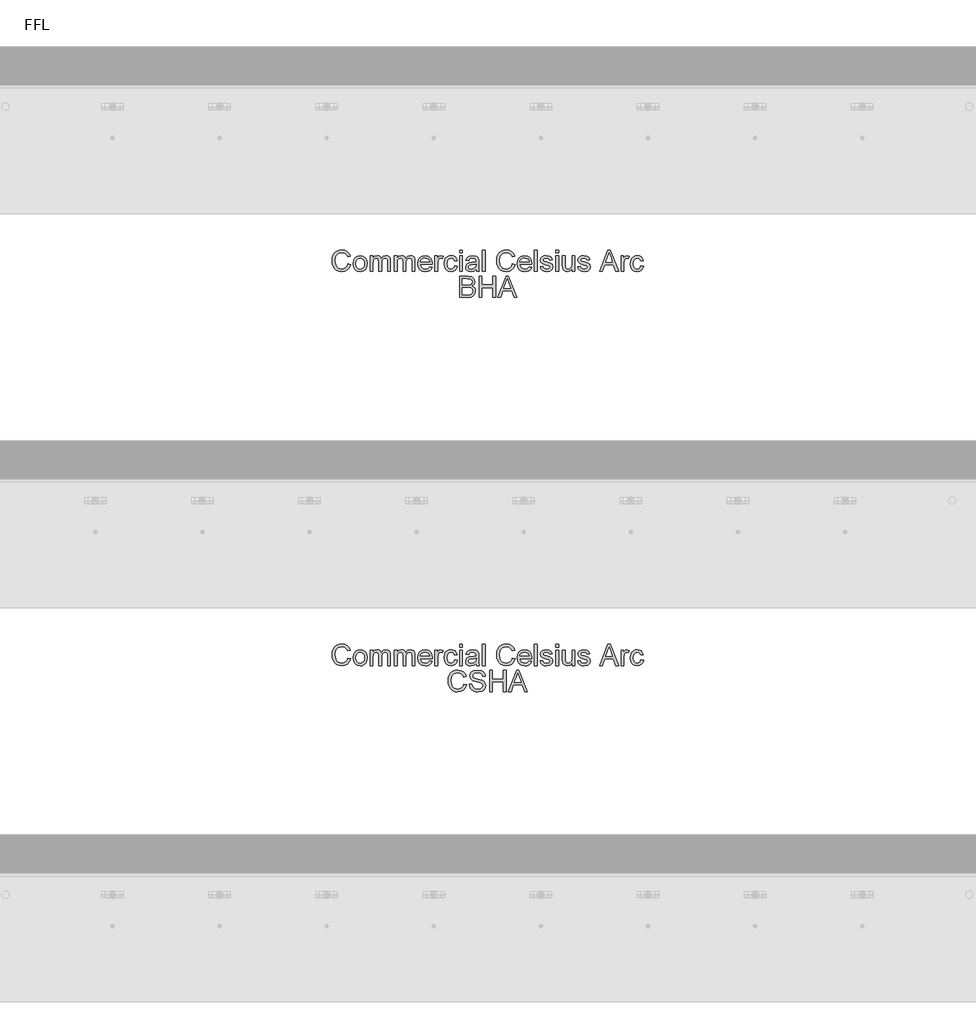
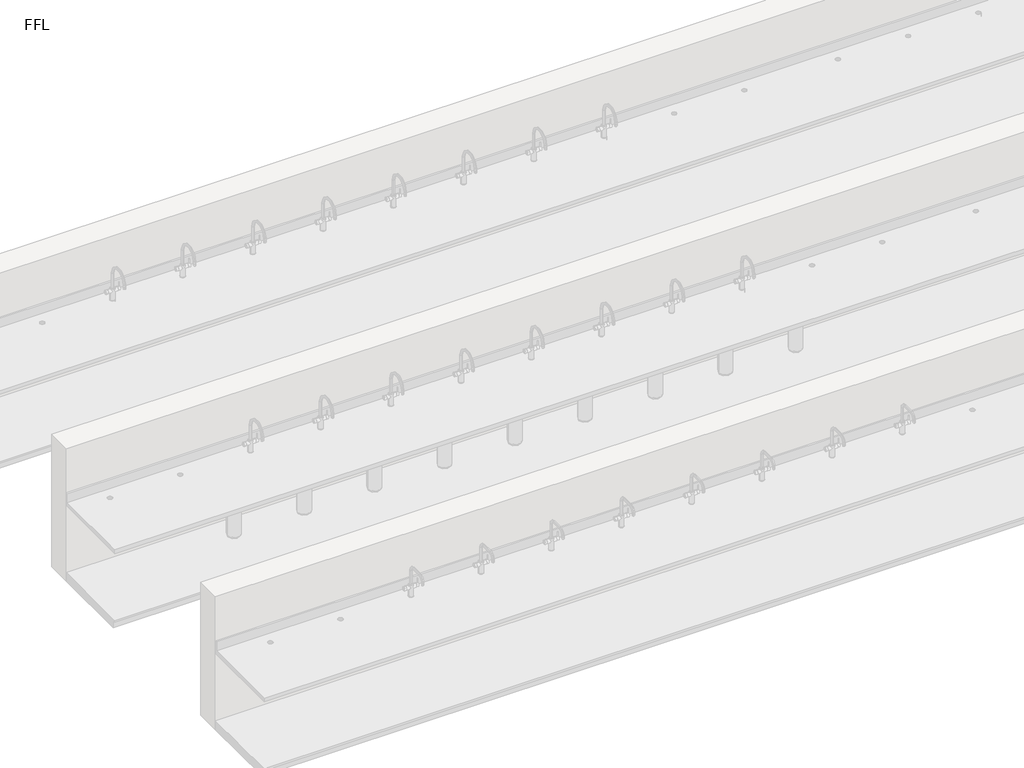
# One storey, part 6 of 9: 2 proxies.
"""IFC4 building model written with IfcOpenShell, lengths in millimetres."""

from ifc_helpers import new_model, si_unit, origin, origin_with_axes, place, context, project, spatial, polyline, outline, extrude, element, save

model = new_model("IFC4")

# Units and contexts
model_context = context("Model", 3, world=origin())
ifc_project = project(units=[si_unit("LENGTHUNIT", "METRE", prefix="MILLI")], contexts=[model_context])

# Site, building, storey
site = spatial("IfcSite", under=ifc_project)
building = spatial("IfcBuilding", under=site)
storey = spatial("IfcBuildingStorey", under=building, Name="FFL", Elevation=0.0)

# Proxies
placement = place(None, origin())
element("IfcBuildingElementProxy", 1, Name="150mm Arial", ObjectType="150mm Arial", at=placement, inside=storey, context=model_context, shape_type="SweptSolid", body=[
    extrude(outline(polyline([(-3320.889139, 3836.3018309), (-3302.4276006, 3831.5422155), (-3310.9462304, 3810.0292948), (-3324.3146198, 3794.3126482), (-3341.8747159, 3784.698766), (-3362.9684659, 3781.4941386), (-3384.382228, 3783.9190184), (-3401.3879371, 3791.1936578), (-3414.4227929, 3803.065653), (-3423.9239948, 3819.2826001), (-3429.724776, 3838.3481049), (-3431.6583698, 3858.7657732), (-3429.4723722, 3880.3012299), (-3422.9143794, 3898.8979847), (-3412.3269395, 3913.9655929), (-3398.0526006, 3924.9136097), (-3381.123514, 3931.5797756), (-3362.5718313, 3933.8018309), (-3342.3299443, 3930.9262299), (-3325.5946679, 3922.299427), (-3312.8888385, 3908.4532732), (-3304.7352929, 3889.9196193), (-3323.1968313, 3885.5205809), (-3329.5970717, 3898.9836217), (-3338.3410621, 3908.2188982), (-3349.5369756, 3913.5599439), (-3363.2929852, 3915.3402924), (-3379.1493554, 3913.3661338), (-3392.1751967, 3907.4436578), (-3402.0595116, 3898.1948597), (-3408.4913025, 3886.2417347), (-3413.1968313, 3858.8018309), (-3407.6259179, 3826.9989463), (-3400.5045236, 3815.1224439), (-3390.2821679, 3806.6804367), (-3378.0270597, 3801.6368669), (-3364.8074083, 3799.955677), (-3349.397252, 3802.2453405), (-3336.5562063, 3809.1143309), (-3326.8611943, 3820.4905328), (-3320.889139, 3836.3018309)])), origin_with_axes(), (0.0, 0.0, 1.0), 5.0),
    extrude(outline(polyline([(-3283.9660621, 3838.0326001), (-3279.9726727, 3864.1834415), (-3267.9925044, 3882.5638501), (-3253.1908217, 3891.5692588), (-3235.4684659, 3894.5710617), (-3216.0739347, 3890.9157131), (-3200.5826486, 3879.9496674), (-3190.427901, 3862.5383092), (-3187.0429852, 3839.5470232), (-3188.5393794, 3820.8961818), (-3193.0285621, 3806.6984655), (-3200.3798241, 3796.0659535), (-3210.4624563, 3788.1107251), (-3222.4381174, 3783.1482852), (-3235.4684659, 3781.4941386), (-3255.0973722, 3785.1359655), (-3270.5706294, 3796.0614463), (-3280.6172039, 3813.8378886), (-3283.9660621, 3838.0326001)]), holes=[polyline([(-3265.5045236, 3838.0686578), (-3263.3681054, 3821.3604246), (-3256.9588506, 3809.456879), (-3247.3134179, 3802.3309775), (-3235.4684659, 3799.955677), (-3223.6776006, 3802.3444992), (-3214.0501967, 3809.5109655), (-3207.6409419, 3821.5722636), (-3205.5045236, 3838.6455809), (-3207.6544635, 3854.8670352), (-3214.1042833, 3866.6083213), (-3223.7452087, 3873.7342227), (-3235.4684659, 3876.1095232), (-3247.3134179, 3873.7432371), (-3256.9588506, 3866.644379), (-3263.3681054, 3854.7678766), (-3265.5045236, 3838.0686578)])]), origin_with_axes(), (0.0, 0.0, 1.0), 5.0),
    extrude(outline(polyline([(-3166.2737544, 3783.8018309), (-3166.2737544, 3892.2633693), (-3147.8122159, 3892.2633693), (-3147.8122159, 3874.4148117), (-3135.1199083, 3889.0362059), (-3117.0550044, 3894.5710617), (-3106.7875765, 3893.1603044), (-3098.5574083, 3888.9280328), (-3088.389139, 3873.1167347), (-3073.9840909, 3889.2074799), (-3055.7929852, 3894.5710617), (-3041.9152809, 3892.3399919), (-3031.6523602, 3885.6467828), (-3025.3107135, 3874.3111458), (-3023.1968313, 3858.1527924), (-3023.1968313, 3783.8018309), (-3041.6583698, 3783.8018309), (-3041.6583698, 3850.2201001), (-3043.3711102, 3865.6347636), (-3049.5730333, 3873.2249078), (-3060.1199083, 3876.1095232), (-3070.1214107, 3874.2615665), (-3078.2749563, 3868.7176963), (-3083.6971318, 3859.0993068), (-3085.5045236, 3845.0277924), (-3085.5045236, 3783.8018309), (-3103.9660621, 3783.8018309), (-3103.9660621, 3852.2753886), (-3108.2388986, 3870.160004), (-3113.8774203, 3874.6221434), (-3122.2473121, 3876.1095232), (-3135.9131775, 3872.143177), (-3144.9997159, 3860.5326001), (-3147.8122159, 3838.5013501), (-3147.8122159, 3783.8018309), (-3166.2737544, 3783.8018309)])), origin_with_axes(), (0.0, 0.0, 1.0), 5.0),
    extrude(outline(polyline([(-2995.5045236, 3783.8018309), (-2995.5045236, 3892.2633693), (-2977.0429852, 3892.2633693), (-2977.0429852, 3874.4148117), (-2964.3506775, 3889.0362059), (-2946.2857736, 3894.5710617), (-2936.0183458, 3893.1603044), (-2927.7881775, 3888.9280328), (-2917.6199083, 3873.1167347), (-2903.2148602, 3889.2074799), (-2885.0237544, 3894.5710617), (-2871.1460501, 3892.3399919), (-2860.8831294, 3885.6467828), (-2854.5414828, 3874.3111458), (-2852.4276006, 3858.1527924), (-2852.4276006, 3783.8018309), (-2870.889139, 3783.8018309), (-2870.889139, 3850.2201001), (-2872.6018794, 3865.6347636), (-2878.8038025, 3873.2249078), (-2889.3506775, 3876.1095232), (-2899.3521799, 3874.2615665), (-2907.5057256, 3868.7176963), (-2912.927901, 3859.0993068), (-2914.7352929, 3845.0277924), (-2914.7352929, 3783.8018309), (-2933.1968313, 3783.8018309), (-2933.1968313, 3852.2753886), (-2937.4696679, 3870.160004), (-2943.1081895, 3874.6221434), (-2951.4780813, 3876.1095232), (-2965.1439467, 3872.143177), (-2974.2304852, 3860.5326001), (-2977.0429852, 3838.5013501), (-2977.0429852, 3783.8018309), (-2995.5045236, 3783.8018309)])), origin_with_axes(), (0.0, 0.0, 1.0), 5.0),
    extrude(outline(polyline([(-2748.7977929, 3816.1095232), (-2730.6968313, 3813.8018309), (-2737.2187664, 3800.1630088), (-2747.6259179, 3789.9676963), (-2761.6839107, 3783.612528), (-2779.1583698, 3781.4941386), (-2800.8200284, 3785.1494871), (-2817.4876967, 3796.1155328), (-2828.1157015, 3813.6801362), (-2831.6583698, 3837.1311578), (-2828.0796438, 3861.3709415), (-2817.3434659, 3879.4989463), (-2800.9011583, 3890.8030328), (-2780.2040429, 3894.5710617), (-2760.1514587, 3890.8120472), (-2744.1283217, 3879.535004), (-2733.6220116, 3861.4430568), (-2730.1199083, 3837.2393309), (-2730.2280813, 3832.2633693), (-2813.1968313, 3832.2633693), (-2810.0012184, 3818.4442588), (-2802.5778409, 3808.285004), (-2791.8641991, 3802.0380088), (-2778.7977929, 3799.955677), (-2760.6968313, 3803.8138501), (-2748.7977929, 3816.1095232)]), holes=[polyline([(-2813.1968313, 3850.7249078), (-2748.5814467, 3850.7249078), (-2751.0784419, 3860.4785136), (-2755.9732736, 3867.455677), (-2766.7364948, 3873.9460617), (-2780.2761583, 3876.1095232), (-2792.7205693, 3874.3832612), (-2803.0105333, 3869.2044751), (-2810.163478, 3861.1320592), (-2813.1968313, 3850.7249078)])]), origin_with_axes(), (0.0, 0.0, 1.0), 5.0),
    extrude(outline(polyline([(-2711.6583698, 3783.8018309), (-2711.6583698, 3892.2633693), (-2695.5045236, 3892.2633693), (-2695.5045236, 3876.2176963), (-2684.0381775, 3891.0013501), (-2672.4997159, 3894.5710617), (-2653.9660621, 3888.8739463), (-2660.1319275, 3872.3234655), (-2673.1126967, 3876.1095232), (-2683.5513986, 3872.4676963), (-2690.2040429, 3862.3715424), (-2693.1968313, 3840.8090424), (-2693.1968313, 3783.8018309), (-2711.6583698, 3783.8018309)])), origin_with_axes(), (0.0, 0.0, 1.0), 5.0),
    extrude(outline(polyline([(-2573.1968313, 3823.0326001), (-2554.7352929, 3820.7249078), (-2559.8825284, 3804.3051362), (-2569.5550044, 3791.8967828), (-2582.842264, 3784.0947996), (-2598.8338506, 3781.4941386), (-2618.4717712, 3785.1224439), (-2633.8278409, 3796.0073597), (-2643.7391991, 3813.6711217), (-2647.0429852, 3837.6359655), (-2641.3999563, 3868.3030328), (-2634.2785621, 3879.8009294), (-2624.2004371, 3888.0085617), (-2612.1436462, 3892.9304367), (-2599.0862544, 3894.5710617), (-2583.4867953, 3892.3174559), (-2571.0153409, 3885.5566386), (-2562.068526, 3874.6491867), (-2557.0429852, 3859.955677), (-2575.5045236, 3857.6479847), (-2584.0682256, 3871.4761097), (-2598.9420236, 3876.1095232), (-2610.8726126, 3873.8288742), (-2620.342264, 3866.986927), (-2626.521651, 3855.2140905), (-2628.5814467, 3838.1407732), (-2626.5667232, 3820.8375881), (-2620.5225525, 3809.0241867), (-2611.2241751, 3802.2228044), (-2599.4468313, 3799.955677), (-2589.8870357, 3801.3709415), (-2582.0489948, 3805.6167347), (-2576.3473722, 3812.8012299), (-2573.1968313, 3823.0326001)])), origin_with_axes(), (0.0, 0.0, 1.0), 5.0),
    extrude(outline(polyline([(-2538.5814467, 3913.0326001), (-2538.5814467, 3931.4941386), (-2520.1199083, 3931.4941386), (-2520.1199083, 3913.0326001), (-2538.5814467, 3913.0326001)])), origin_with_axes(), (0.0, 0.0, 1.0), 5.0),
    extrude(outline(polyline([(-2538.5814467, 3783.8018309), (-2538.5814467, 3892.2633693), (-2520.1199083, 3892.2633693), (-2520.1199083, 3783.8018309), (-2538.5814467, 3783.8018309)])), origin_with_axes(), (0.0, 0.0, 1.0), 5.0),
    extrude(outline(polyline([(-2423.1968313, 3797.6479847), (-2441.0994756, 3785.1359655), (-2460.8771198, 3781.4941386), (-2476.3053049, 3783.6846434), (-2487.686014, 3790.2561578), (-2494.7037424, 3800.2351242), (-2497.0429852, 3812.6479847), (-2493.5093313, 3827.2513501), (-2484.2244756, 3837.8523117), (-2471.2977929, 3843.910004), (-2455.3242352, 3846.6864463), (-2423.3050044, 3853.0326001), (-2423.1968313, 3857.143177), (-2424.467865, 3865.3823597), (-2428.2809659, 3870.7729847), (-2436.8086102, 3874.7753886), (-2448.6896198, 3876.1095232), (-2467.3675044, 3872.5578405), (-2476.2737544, 3859.955677), (-2494.7352929, 3862.2633693), (-2486.748514, 3880.2922155), (-2470.6667833, 3890.8571193), (-2446.3098121, 3894.5710617), (-2423.936014, 3891.2898117), (-2411.2977929, 3883.050629), (-2405.6367352, 3870.5205809), (-2404.7352929, 3854.3667347), (-2404.7352929, 3831.3979847), (-2403.7977929, 3799.3246674), (-2400.1199083, 3783.8018309), (-2418.5814467, 3783.8018309), (-2423.1968313, 3797.6479847)]), holes=[polyline([(-2423.1968313, 3834.5710617), (-2452.9804852, 3828.910004), (-2468.8638986, 3825.9172155), (-2476.0574083, 3821.049427), (-2478.5814467, 3813.9460617), (-2473.0826486, 3803.9580809), (-2456.9468313, 3799.955677), (-2438.2689467, 3804.3727443), (-2426.2256775, 3815.0638501), (-2423.3050044, 3829.3426963), (-2423.1968313, 3834.5710617)])]), origin_with_axes(), (0.0, 0.0, 1.0), 5.0),
    extrude(outline(polyline([(-2379.3506775, 3783.8018309), (-2379.3506775, 3931.4941386), (-2360.889139, 3931.4941386), (-2360.889139, 3783.8018309), (-2379.3506775, 3783.8018309)])), origin_with_axes(), (0.0, 0.0, 1.0), 5.0),
    extrude(outline(polyline([(-2169.3506775, 3836.3018309), (-2150.889139, 3831.5422155), (-2159.4077688, 3810.0292948), (-2172.7761583, 3794.3126482), (-2190.3362544, 3784.698766), (-2211.4300044, 3781.4941386), (-2232.8437664, 3783.9190184), (-2249.8494756, 3791.1936578), (-2262.8843313, 3803.065653), (-2272.3855333, 3819.2826001), (-2278.1863145, 3838.3481049), (-2280.1199083, 3858.7657732), (-2277.9339107, 3880.3012299), (-2271.3759179, 3898.8979847), (-2260.788478, 3913.9655929), (-2246.514139, 3924.9136097), (-2229.5850525, 3931.5797756), (-2211.0333698, 3933.8018309), (-2190.7914828, 3930.9262299), (-2174.0562063, 3922.299427), (-2161.350377, 3908.4532732), (-2153.1968313, 3889.9196193), (-2171.6583698, 3885.5205809), (-2178.0586102, 3898.9836217), (-2186.8026006, 3908.2188982), (-2197.998514, 3913.5599439), (-2211.7545236, 3915.3402924), (-2227.6108938, 3913.3661338), (-2240.6367352, 3907.4436578), (-2250.5210501, 3898.1948597), (-2256.9528409, 3886.2417347), (-2261.6583698, 3858.8018309), (-2256.0874563, 3826.9989463), (-2248.9660621, 3815.1224439), (-2238.7437063, 3806.6804367), (-2226.4885982, 3801.6368669), (-2213.2689467, 3799.955677), (-2197.8587905, 3802.2453405), (-2185.0177448, 3809.1143309), (-2175.3227328, 3820.4905328), (-2169.3506775, 3836.3018309)])), origin_with_axes(), (0.0, 0.0, 1.0), 5.0),
    extrude(outline(polyline([(-2051.8747159, 3816.1095232), (-2033.7737544, 3813.8018309), (-2040.2956895, 3800.1630088), (-2050.7028409, 3789.9676963), (-2064.7608337, 3783.612528), (-2082.2352929, 3781.4941386), (-2103.8969515, 3785.1494871), (-2120.5646198, 3796.1155328), (-2131.1926246, 3813.6801362), (-2134.7352929, 3837.1311578), (-2131.1565669, 3861.3709415), (-2120.420389, 3879.4989463), (-2103.9780813, 3890.8030328), (-2083.2809659, 3894.5710617), (-2063.2283818, 3890.8120472), (-2047.2052448, 3879.535004), (-2036.6989347, 3861.4430568), (-2033.1968313, 3837.2393309), (-2033.3050044, 3832.2633693), (-2116.2737544, 3832.2633693), (-2113.0781414, 3818.4442588), (-2105.654764, 3808.285004), (-2094.9411222, 3802.0380088), (-2081.8747159, 3799.955677), (-2063.7737544, 3803.8138501), (-2051.8747159, 3816.1095232)]), holes=[polyline([(-2116.2737544, 3850.7249078), (-2051.6583698, 3850.7249078), (-2054.155365, 3860.4785136), (-2059.0501967, 3867.455677), (-2069.8134179, 3873.9460617), (-2083.3530813, 3876.1095232), (-2095.7974924, 3874.3832612), (-2106.0874563, 3869.2044751), (-2113.240401, 3861.1320592), (-2116.2737544, 3850.7249078)])]), origin_with_axes(), (0.0, 0.0, 1.0), 5.0),
    extrude(outline(polyline([(-2014.7352929, 3783.8018309), (-2014.7352929, 3931.4941386), (-1996.2737544, 3931.4941386), (-1996.2737544, 3783.8018309), (-2014.7352929, 3783.8018309)])), origin_with_axes(), (0.0, 0.0, 1.0), 5.0),
    extrude(outline(polyline([(-1975.5045236, 3816.1095232), (-1957.0429852, 3818.4172155), (-1954.1313265, 3810.5205809), (-1948.4973121, 3804.7152924), (-1928.9179852, 3799.955677), (-1910.0958698, 3804.3186578), (-1903.9660621, 3814.5590424), (-1910.1319275, 3822.8523117), (-1929.1343313, 3828.1167347), (-1956.9348121, 3837.1491867), (-1969.0682256, 3847.6960617), (-1973.1968313, 3862.5878886), (-1969.8795236, 3876.3438982), (-1960.8290429, 3886.8547155), (-1949.092264, 3892.3174559), (-1933.2088506, 3894.5710617), (-1910.7449083, 3890.9472636), (-1896.4660621, 3881.1395713), (-1890.1199083, 3864.5710617), (-1908.5814467, 3862.2633693), (-1915.5225525, 3872.4496674), (-1931.7665429, 3876.1095232), (-1949.4348121, 3872.611927), (-1954.7352929, 3864.4628886), (-1952.5357736, 3859.0902924), (-1945.6487544, 3855.0157732), (-1929.7473121, 3851.0854847), (-1902.6499563, 3842.3955809), (-1890.0658217, 3832.5518309), (-1885.5045236, 3816.5061578), (-1890.8590909, 3798.8378886), (-1906.3098121, 3786.019379), (-1929.170389, 3781.4941386), (-1947.7851727, 3783.675629), (-1961.3699083, 3790.2201001), (-1970.4384179, 3801.0554367), (-1975.5045236, 3816.1095232)])), origin_with_axes(), (0.0, 0.0, 1.0), 5.0),
    extrude(outline(polyline([(-1864.7352929, 3783.8018309), (-1864.7352929, 3892.2633693), (-1846.2737544, 3892.2633693), (-1846.2737544, 3783.8018309), (-1864.7352929, 3783.8018309)])), origin_with_axes(), (0.0, 0.0, 1.0), 5.0),
    extrude(outline(polyline([(-1864.7352929, 3913.0326001), (-1864.7352929, 3931.4941386), (-1846.2737544, 3931.4941386), (-1846.2737544, 3913.0326001), (-1864.7352929, 3913.0326001)])), origin_with_axes(), (0.0, 0.0, 1.0), 5.0),
    extrude(outline(polyline([(-1749.3506775, 3783.8018309), (-1749.3506775, 3802.4436578), (-1763.8098121, 3786.7315184), (-1782.6679852, 3781.4941386), (-1800.029764, 3785.1720232), (-1812.0009179, 3794.4027924), (-1817.4997159, 3807.9965424), (-1818.5814467, 3825.160004), (-1818.5814467, 3892.2633693), (-1800.1199083, 3892.2633693), (-1800.1199083, 3833.8499078), (-1799.0021198, 3815.0277924), (-1791.7004371, 3803.9761097), (-1777.9444275, 3799.955677), (-1762.529764, 3804.066254), (-1752.3434659, 3815.2621674), (-1749.3506775, 3835.8330809), (-1749.3506775, 3892.2633693), (-1730.889139, 3892.2633693), (-1730.889139, 3783.8018309), (-1749.3506775, 3783.8018309)])), origin_with_axes(), (0.0, 0.0, 1.0), 5.0),
    extrude(outline(polyline([(-1712.4276006, 3816.1095232), (-1693.9660621, 3818.4172155), (-1691.0544034, 3810.5205809), (-1685.420389, 3804.7152924), (-1665.8410621, 3799.955677), (-1647.0189467, 3804.3186578), (-1640.889139, 3814.5590424), (-1647.0550044, 3822.8523117), (-1666.0574083, 3828.1167347), (-1693.857889, 3837.1491867), (-1705.9913025, 3847.6960617), (-1710.1199083, 3862.5878886), (-1706.8026006, 3876.3438982), (-1697.7521198, 3886.8547155), (-1686.0153409, 3892.3174559), (-1670.1319275, 3894.5710617), (-1647.6679852, 3890.9472636), (-1633.389139, 3881.1395713), (-1627.0429852, 3864.5710617), (-1645.5045236, 3862.2633693), (-1652.4456294, 3872.4496674), (-1668.6896198, 3876.1095232), (-1686.357889, 3872.611927), (-1691.6583698, 3864.4628886), (-1689.4588506, 3859.0902924), (-1682.5718313, 3855.0157732), (-1666.670389, 3851.0854847), (-1639.5730333, 3842.3955809), (-1626.9888986, 3832.5518309), (-1622.4276006, 3816.5061578), (-1627.7821679, 3798.8378886), (-1643.232889, 3786.019379), (-1666.0934659, 3781.4941386), (-1684.7082496, 3783.675629), (-1698.2929852, 3790.2201001), (-1707.3614948, 3801.0554367), (-1712.4276006, 3816.1095232)])), origin_with_axes(), (0.0, 0.0, 1.0), 5.0),
    extrude(outline(polyline([(-1558.857889, 3783.8018309), (-1499.9035621, 3931.4941386), (-1484.1824083, 3931.4941386), (-1425.2280813, 3783.8018309), (-1444.7352929, 3783.8018309), (-1461.6463506, 3829.955677), (-1522.4756775, 3829.955677), (-1539.3506775, 3783.8018309), (-1558.857889, 3783.8018309)]), holes=[polyline([(-1515.6968313, 3848.4172155), (-1468.389139, 3848.4172155), (-1481.6944275, 3884.7273117), (-1492.0429852, 3913.0326001), (-1501.2376967, 3887.9003886), (-1515.6968313, 3848.4172155)])]), origin_with_axes(), (0.0, 0.0, 1.0), 5.0),
    extrude(outline(polyline([(-1407.8122159, 3783.8018309), (-1407.8122159, 3892.2633693), (-1391.6583698, 3892.2633693), (-1391.6583698, 3876.2176963), (-1380.1920236, 3891.0013501), (-1368.6535621, 3894.5710617), (-1350.1199083, 3888.8739463), (-1356.2857736, 3872.3234655), (-1369.2665429, 3876.1095232), (-1379.7052448, 3872.4676963), (-1386.357889, 3862.3715424), (-1389.3506775, 3840.8090424), (-1389.3506775, 3783.8018309), (-1407.8122159, 3783.8018309)])), origin_with_axes(), (0.0, 0.0, 1.0), 5.0),
    extrude(outline(polyline([(-1269.3506775, 3823.0326001), (-1250.889139, 3820.7249078), (-1256.0363746, 3804.3051362), (-1265.7088506, 3791.8967828), (-1278.9961102, 3784.0947996), (-1294.9876967, 3781.4941386), (-1314.6256174, 3785.1224439), (-1329.9816871, 3796.0073597), (-1339.8930453, 3813.6711217), (-1343.1968313, 3837.6359655), (-1337.5538025, 3868.3030328), (-1330.4324083, 3879.8009294), (-1320.3542833, 3888.0085617), (-1308.2974924, 3892.9304367), (-1295.2401006, 3894.5710617), (-1279.6406414, 3892.3174559), (-1267.1691871, 3885.5566386), (-1258.2223722, 3874.6491867), (-1253.1968313, 3859.955677), (-1271.6583698, 3857.6479847), (-1280.2220717, 3871.4761097), (-1295.0958698, 3876.1095232), (-1307.0264587, 3873.8288742), (-1316.4961102, 3866.986927), (-1322.6754972, 3855.2140905), (-1324.7352929, 3838.1407732), (-1322.7205693, 3820.8375881), (-1316.6763986, 3809.0241867), (-1307.3780212, 3802.2228044), (-1295.6006775, 3799.955677), (-1286.0408818, 3801.3709415), (-1278.2028409, 3805.6167347), (-1272.5012184, 3812.8012299), (-1269.3506775, 3823.0326001)])), origin_with_axes(), (0.0, 0.0, 1.0), 5.0),
    extrude(outline(polyline([(-2538.5814467, 3601.4941386), (-2538.5814467, 3749.1864463), (-2482.2232736, 3749.1864463), (-2454.6211102, 3744.8414943), (-2445.3452688, 3739.3291746), (-2438.3230333, 3731.4821193), (-2432.4276006, 3712.5878886), (-2437.3855333, 3695.3342828), (-2452.3675044, 3682.2633693), (-2441.9062664, 3676.800629), (-2434.1763986, 3668.4893309), (-2429.4032616, 3657.8793549), (-2427.8122159, 3645.5205809), (-2432.1571679, 3625.6708213), (-2442.920389, 3611.5362059), (-2458.9840909, 3604.0362059), (-2482.6559659, 3601.4941386), (-2538.5814467, 3601.4941386)]), holes=[polyline([(-2520.1199083, 3689.1864463), (-2486.4059659, 3689.1864463), (-2466.7184659, 3690.7729847), (-2454.873514, 3697.6059174), (-2450.889139, 3709.6311578), (-2454.6030813, 3721.674427), (-2465.2401006, 3728.7958213), (-2488.9660621, 3730.7249078), (-2520.1199083, 3730.7249078), (-2520.1199083, 3689.1864463)]), polyline([(-2520.1199083, 3619.955677), (-2482.2593313, 3619.955677), (-2468.5574083, 3620.6768309), (-2456.9648602, 3624.6972636), (-2449.2845717, 3632.9003886), (-2446.2737544, 3645.3402924), (-2449.8074083, 3659.691254), (-2461.2557256, 3668.2549559), (-2484.0622159, 3670.7249078), (-2520.1199083, 3670.7249078), (-2520.1199083, 3619.955677)])]), origin_with_axes(), (0.0, 0.0, 1.0), 5.0),
    extrude(outline(polyline([(-2402.4276006, 3601.4941386), (-2402.4276006, 3749.1864463), (-2383.9660621, 3749.1864463), (-2383.9660621, 3689.1864463), (-2305.5045236, 3689.1864463), (-2305.5045236, 3749.1864463), (-2287.0429852, 3749.1864463), (-2287.0429852, 3601.4941386), (-2305.5045236, 3601.4941386), (-2305.5045236, 3670.7249078), (-2383.9660621, 3670.7249078), (-2383.9660621, 3601.4941386), (-2402.4276006, 3601.4941386)])), origin_with_axes(), (0.0, 0.0, 1.0), 5.0),
    extrude(outline(polyline([(-2271.9348121, 3601.4941386), (-2212.9804852, 3749.1864463), (-2197.2593313, 3749.1864463), (-2138.3050044, 3601.4941386), (-2157.8122159, 3601.4941386), (-2174.7232736, 3647.6479847), (-2235.5526006, 3647.6479847), (-2252.4276006, 3601.4941386), (-2271.9348121, 3601.4941386)]), holes=[polyline([(-2228.7737544, 3666.1095232), (-2181.4660621, 3666.1095232), (-2194.7713506, 3702.4196193), (-2205.1199083, 3730.7249078), (-2214.3146198, 3705.5926963), (-2228.7737544, 3666.1095232)])]), origin_with_axes(), (0.0, 0.0, 1.0), 5.0),
])
element("IfcBuildingElementProxy", 2, Name="150mm Arial", ObjectType="150mm Arial", at=placement, inside=storey, context=model_context, shape_type="SweptSolid", body=[
    extrude(outline(polyline([(-3320.889139, 1076.3018309), (-3302.4276006, 1071.5422155), (-3310.9462304, 1050.0292948), (-3324.3146198, 1034.3126482), (-3341.8747159, 1024.698766), (-3362.9684659, 1021.4941386), (-3384.382228, 1023.9190184), (-3401.3879371, 1031.1936578), (-3414.4227929, 1043.065653), (-3423.9239948, 1059.2826001), (-3429.724776, 1078.3481049), (-3431.6583698, 1098.7657732), (-3429.4723722, 1120.3012299), (-3422.9143794, 1138.8979847), (-3412.3269395, 1153.9655929), (-3398.0526006, 1164.9136097), (-3381.123514, 1171.5797756), (-3362.5718313, 1173.8018309), (-3342.3299443, 1170.9262299), (-3325.5946679, 1162.299427), (-3312.8888385, 1148.4532732), (-3304.7352929, 1129.9196193), (-3323.1968313, 1125.5205809), (-3329.5970717, 1138.9836217), (-3338.3410621, 1148.2188982), (-3349.5369756, 1153.5599439), (-3363.2929852, 1155.3402924), (-3379.1493554, 1153.3661338), (-3392.1751967, 1147.4436578), (-3402.0595116, 1138.1948597), (-3408.4913025, 1126.2417347), (-3413.1968313, 1098.8018309), (-3407.6259179, 1066.9989463), (-3400.5045236, 1055.1224439), (-3390.2821679, 1046.6804367), (-3378.0270597, 1041.6368669), (-3364.8074083, 1039.955677), (-3349.397252, 1042.2453405), (-3336.5562063, 1049.1143309), (-3326.8611943, 1060.4905328), (-3320.889139, 1076.3018309)])), origin_with_axes(), (0.0, 0.0, 1.0), 5.0),
    extrude(outline(polyline([(-3283.9660621, 1078.0326001), (-3279.9726727, 1104.1834415), (-3267.9925044, 1122.5638501), (-3253.1908217, 1131.5692588), (-3235.4684659, 1134.5710617), (-3216.0739347, 1130.9157131), (-3200.5826486, 1119.9496674), (-3190.427901, 1102.5383092), (-3187.0429852, 1079.5470232), (-3188.5393794, 1060.8961818), (-3193.0285621, 1046.6984655), (-3200.3798241, 1036.0659535), (-3210.4624563, 1028.1107251), (-3222.4381174, 1023.1482852), (-3235.4684659, 1021.4941386), (-3255.0973722, 1025.1359655), (-3270.5706294, 1036.0614463), (-3280.6172039, 1053.8378886), (-3283.9660621, 1078.0326001)]), holes=[polyline([(-3265.5045236, 1078.0686578), (-3263.3681054, 1061.3604246), (-3256.9588506, 1049.456879), (-3247.3134179, 1042.3309775), (-3235.4684659, 1039.955677), (-3223.6776006, 1042.3444992), (-3214.0501967, 1049.5109655), (-3207.6409419, 1061.5722636), (-3205.5045236, 1078.6455809), (-3207.6544635, 1094.8670352), (-3214.1042833, 1106.6083213), (-3223.7452087, 1113.7342227), (-3235.4684659, 1116.1095232), (-3247.3134179, 1113.7432371), (-3256.9588506, 1106.644379), (-3263.3681054, 1094.7678766), (-3265.5045236, 1078.0686578)])]), origin_with_axes(), (0.0, 0.0, 1.0), 5.0),
    extrude(outline(polyline([(-3166.2737544, 1023.8018309), (-3166.2737544, 1132.2633693), (-3147.8122159, 1132.2633693), (-3147.8122159, 1114.4148117), (-3135.1199083, 1129.0362059), (-3117.0550044, 1134.5710617), (-3106.7875765, 1133.1603044), (-3098.5574083, 1128.9280328), (-3088.389139, 1113.1167347), (-3073.9840909, 1129.2074799), (-3055.7929852, 1134.5710617), (-3041.9152809, 1132.3399919), (-3031.6523602, 1125.6467828), (-3025.3107135, 1114.3111458), (-3023.1968313, 1098.1527924), (-3023.1968313, 1023.8018309), (-3041.6583698, 1023.8018309), (-3041.6583698, 1090.2201001), (-3043.3711102, 1105.6347636), (-3049.5730333, 1113.2249078), (-3060.1199083, 1116.1095232), (-3070.1214107, 1114.2615665), (-3078.2749563, 1108.7176963), (-3083.6971318, 1099.0993068), (-3085.5045236, 1085.0277924), (-3085.5045236, 1023.8018309), (-3103.9660621, 1023.8018309), (-3103.9660621, 1092.2753886), (-3108.2388986, 1110.160004), (-3113.8774203, 1114.6221434), (-3122.2473121, 1116.1095232), (-3135.9131775, 1112.143177), (-3144.9997159, 1100.5326001), (-3147.8122159, 1078.5013501), (-3147.8122159, 1023.8018309), (-3166.2737544, 1023.8018309)])), origin_with_axes(), (0.0, 0.0, 1.0), 5.0),
    extrude(outline(polyline([(-2995.5045236, 1023.8018309), (-2995.5045236, 1132.2633693), (-2977.0429852, 1132.2633693), (-2977.0429852, 1114.4148117), (-2964.3506775, 1129.0362059), (-2946.2857736, 1134.5710617), (-2936.0183458, 1133.1603044), (-2927.7881775, 1128.9280328), (-2917.6199083, 1113.1167347), (-2903.2148602, 1129.2074799), (-2885.0237544, 1134.5710617), (-2871.1460501, 1132.3399919), (-2860.8831294, 1125.6467828), (-2854.5414828, 1114.3111458), (-2852.4276006, 1098.1527924), (-2852.4276006, 1023.8018309), (-2870.889139, 1023.8018309), (-2870.889139, 1090.2201001), (-2872.6018794, 1105.6347636), (-2878.8038025, 1113.2249078), (-2889.3506775, 1116.1095232), (-2899.3521799, 1114.2615665), (-2907.5057256, 1108.7176963), (-2912.927901, 1099.0993068), (-2914.7352929, 1085.0277924), (-2914.7352929, 1023.8018309), (-2933.1968313, 1023.8018309), (-2933.1968313, 1092.2753886), (-2937.4696679, 1110.160004), (-2943.1081895, 1114.6221434), (-2951.4780813, 1116.1095232), (-2965.1439467, 1112.143177), (-2974.2304852, 1100.5326001), (-2977.0429852, 1078.5013501), (-2977.0429852, 1023.8018309), (-2995.5045236, 1023.8018309)])), origin_with_axes(), (0.0, 0.0, 1.0), 5.0),
    extrude(outline(polyline([(-2748.7977929, 1056.1095232), (-2730.6968313, 1053.8018309), (-2737.2187664, 1040.1630088), (-2747.6259179, 1029.9676963), (-2761.6839107, 1023.612528), (-2779.1583698, 1021.4941386), (-2800.8200284, 1025.1494871), (-2817.4876967, 1036.1155328), (-2828.1157015, 1053.6801362), (-2831.6583698, 1077.1311578), (-2828.0796438, 1101.3709415), (-2817.3434659, 1119.4989463), (-2800.9011583, 1130.8030328), (-2780.2040429, 1134.5710617), (-2760.1514587, 1130.8120472), (-2744.1283217, 1119.535004), (-2733.6220116, 1101.4430568), (-2730.1199083, 1077.2393309), (-2730.2280813, 1072.2633693), (-2813.1968313, 1072.2633693), (-2810.0012184, 1058.4442588), (-2802.5778409, 1048.285004), (-2791.8641991, 1042.0380088), (-2778.7977929, 1039.955677), (-2760.6968313, 1043.8138501), (-2748.7977929, 1056.1095232)]), holes=[polyline([(-2813.1968313, 1090.7249078), (-2748.5814467, 1090.7249078), (-2751.0784419, 1100.4785136), (-2755.9732736, 1107.455677), (-2766.7364948, 1113.9460617), (-2780.2761583, 1116.1095232), (-2792.7205693, 1114.3832612), (-2803.0105333, 1109.2044751), (-2810.163478, 1101.1320592), (-2813.1968313, 1090.7249078)])]), origin_with_axes(), (0.0, 0.0, 1.0), 5.0),
    extrude(outline(polyline([(-2711.6583698, 1023.8018309), (-2711.6583698, 1132.2633693), (-2695.5045236, 1132.2633693), (-2695.5045236, 1116.2176963), (-2684.0381775, 1131.0013501), (-2672.4997159, 1134.5710617), (-2653.9660621, 1128.8739463), (-2660.1319275, 1112.3234655), (-2673.1126967, 1116.1095232), (-2683.5513986, 1112.4676963), (-2690.2040429, 1102.3715424), (-2693.1968313, 1080.8090424), (-2693.1968313, 1023.8018309), (-2711.6583698, 1023.8018309)])), origin_with_axes(), (0.0, 0.0, 1.0), 5.0),
    extrude(outline(polyline([(-2573.1968313, 1063.0326001), (-2554.7352929, 1060.7249078), (-2559.8825284, 1044.3051362), (-2569.5550044, 1031.8967828), (-2582.842264, 1024.0947996), (-2598.8338506, 1021.4941386), (-2618.4717712, 1025.1224439), (-2633.8278409, 1036.0073597), (-2643.7391991, 1053.6711217), (-2647.0429852, 1077.6359655), (-2641.3999563, 1108.3030328), (-2634.2785621, 1119.8009294), (-2624.2004371, 1128.0085617), (-2612.1436462, 1132.9304367), (-2599.0862544, 1134.5710617), (-2583.4867953, 1132.3174559), (-2571.0153409, 1125.5566386), (-2562.068526, 1114.6491867), (-2557.0429852, 1099.955677), (-2575.5045236, 1097.6479847), (-2584.0682256, 1111.4761097), (-2598.9420236, 1116.1095232), (-2610.8726126, 1113.8288742), (-2620.342264, 1106.986927), (-2626.521651, 1095.2140905), (-2628.5814467, 1078.1407732), (-2626.5667232, 1060.8375881), (-2620.5225525, 1049.0241867), (-2611.2241751, 1042.2228044), (-2599.4468313, 1039.955677), (-2589.8870357, 1041.3709415), (-2582.0489948, 1045.6167347), (-2576.3473722, 1052.8012299), (-2573.1968313, 1063.0326001)])), origin_with_axes(), (0.0, 0.0, 1.0), 5.0),
    extrude(outline(polyline([(-2538.5814467, 1153.0326001), (-2538.5814467, 1171.4941386), (-2520.1199083, 1171.4941386), (-2520.1199083, 1153.0326001), (-2538.5814467, 1153.0326001)])), origin_with_axes(), (0.0, 0.0, 1.0), 5.0),
    extrude(outline(polyline([(-2538.5814467, 1023.8018309), (-2538.5814467, 1132.2633693), (-2520.1199083, 1132.2633693), (-2520.1199083, 1023.8018309), (-2538.5814467, 1023.8018309)])), origin_with_axes(), (0.0, 0.0, 1.0), 5.0),
    extrude(outline(polyline([(-2423.1968313, 1037.6479847), (-2441.0994756, 1025.1359655), (-2460.8771198, 1021.4941386), (-2476.3053049, 1023.6846434), (-2487.686014, 1030.2561578), (-2494.7037424, 1040.2351242), (-2497.0429852, 1052.6479847), (-2493.5093313, 1067.2513501), (-2484.2244756, 1077.8523117), (-2471.2977929, 1083.910004), (-2455.3242352, 1086.6864463), (-2423.3050044, 1093.0326001), (-2423.1968313, 1097.143177), (-2424.467865, 1105.3823597), (-2428.2809659, 1110.7729847), (-2436.8086102, 1114.7753886), (-2448.6896198, 1116.1095232), (-2467.3675044, 1112.5578405), (-2476.2737544, 1099.955677), (-2494.7352929, 1102.2633693), (-2486.748514, 1120.2922155), (-2470.6667833, 1130.8571193), (-2446.3098121, 1134.5710617), (-2423.936014, 1131.2898117), (-2411.2977929, 1123.050629), (-2405.6367352, 1110.5205809), (-2404.7352929, 1094.3667347), (-2404.7352929, 1071.3979847), (-2403.7977929, 1039.3246674), (-2400.1199083, 1023.8018309), (-2418.5814467, 1023.8018309), (-2423.1968313, 1037.6479847)]), holes=[polyline([(-2423.1968313, 1074.5710617), (-2452.9804852, 1068.910004), (-2468.8638986, 1065.9172155), (-2476.0574083, 1061.049427), (-2478.5814467, 1053.9460617), (-2473.0826486, 1043.9580809), (-2456.9468313, 1039.955677), (-2438.2689467, 1044.3727443), (-2426.2256775, 1055.0638501), (-2423.3050044, 1069.3426963), (-2423.1968313, 1074.5710617)])]), origin_with_axes(), (0.0, 0.0, 1.0), 5.0),
    extrude(outline(polyline([(-2379.3506775, 1023.8018309), (-2379.3506775, 1171.4941386), (-2360.889139, 1171.4941386), (-2360.889139, 1023.8018309), (-2379.3506775, 1023.8018309)])), origin_with_axes(), (0.0, 0.0, 1.0), 5.0),
    extrude(outline(polyline([(-2169.3506775, 1076.3018309), (-2150.889139, 1071.5422155), (-2159.4077688, 1050.0292948), (-2172.7761583, 1034.3126482), (-2190.3362544, 1024.698766), (-2211.4300044, 1021.4941386), (-2232.8437664, 1023.9190184), (-2249.8494756, 1031.1936578), (-2262.8843313, 1043.065653), (-2272.3855333, 1059.2826001), (-2278.1863145, 1078.3481049), (-2280.1199083, 1098.7657732), (-2277.9339107, 1120.3012299), (-2271.3759179, 1138.8979847), (-2260.788478, 1153.9655929), (-2246.514139, 1164.9136097), (-2229.5850525, 1171.5797756), (-2211.0333698, 1173.8018309), (-2190.7914828, 1170.9262299), (-2174.0562063, 1162.299427), (-2161.350377, 1148.4532732), (-2153.1968313, 1129.9196193), (-2171.6583698, 1125.5205809), (-2178.0586102, 1138.9836217), (-2186.8026006, 1148.2188982), (-2197.998514, 1153.5599439), (-2211.7545236, 1155.3402924), (-2227.6108938, 1153.3661338), (-2240.6367352, 1147.4436578), (-2250.5210501, 1138.1948597), (-2256.9528409, 1126.2417347), (-2261.6583698, 1098.8018309), (-2256.0874563, 1066.9989463), (-2248.9660621, 1055.1224439), (-2238.7437063, 1046.6804367), (-2226.4885982, 1041.6368669), (-2213.2689467, 1039.955677), (-2197.8587905, 1042.2453405), (-2185.0177448, 1049.1143309), (-2175.3227328, 1060.4905328), (-2169.3506775, 1076.3018309)])), origin_with_axes(), (0.0, 0.0, 1.0), 5.0),
    extrude(outline(polyline([(-2051.8747159, 1056.1095232), (-2033.7737544, 1053.8018309), (-2040.2956895, 1040.1630088), (-2050.7028409, 1029.9676963), (-2064.7608337, 1023.612528), (-2082.2352929, 1021.4941386), (-2103.8969515, 1025.1494871), (-2120.5646198, 1036.1155328), (-2131.1926246, 1053.6801362), (-2134.7352929, 1077.1311578), (-2131.1565669, 1101.3709415), (-2120.420389, 1119.4989463), (-2103.9780813, 1130.8030328), (-2083.2809659, 1134.5710617), (-2063.2283818, 1130.8120472), (-2047.2052448, 1119.535004), (-2036.6989347, 1101.4430568), (-2033.1968313, 1077.2393309), (-2033.3050044, 1072.2633693), (-2116.2737544, 1072.2633693), (-2113.0781414, 1058.4442588), (-2105.654764, 1048.285004), (-2094.9411222, 1042.0380088), (-2081.8747159, 1039.955677), (-2063.7737544, 1043.8138501), (-2051.8747159, 1056.1095232)]), holes=[polyline([(-2116.2737544, 1090.7249078), (-2051.6583698, 1090.7249078), (-2054.155365, 1100.4785136), (-2059.0501967, 1107.455677), (-2069.8134179, 1113.9460617), (-2083.3530813, 1116.1095232), (-2095.7974924, 1114.3832612), (-2106.0874563, 1109.2044751), (-2113.240401, 1101.1320592), (-2116.2737544, 1090.7249078)])]), origin_with_axes(), (0.0, 0.0, 1.0), 5.0),
    extrude(outline(polyline([(-2014.7352929, 1023.8018309), (-2014.7352929, 1171.4941386), (-1996.2737544, 1171.4941386), (-1996.2737544, 1023.8018309), (-2014.7352929, 1023.8018309)])), origin_with_axes(), (0.0, 0.0, 1.0), 5.0),
    extrude(outline(polyline([(-1975.5045236, 1056.1095232), (-1957.0429852, 1058.4172155), (-1954.1313265, 1050.5205809), (-1948.4973121, 1044.7152924), (-1928.9179852, 1039.955677), (-1910.0958698, 1044.3186578), (-1903.9660621, 1054.5590424), (-1910.1319275, 1062.8523117), (-1929.1343313, 1068.1167347), (-1956.9348121, 1077.1491867), (-1969.0682256, 1087.6960617), (-1973.1968313, 1102.5878886), (-1969.8795236, 1116.3438982), (-1960.8290429, 1126.8547155), (-1949.092264, 1132.3174559), (-1933.2088506, 1134.5710617), (-1910.7449083, 1130.9472636), (-1896.4660621, 1121.1395713), (-1890.1199083, 1104.5710617), (-1908.5814467, 1102.2633693), (-1915.5225525, 1112.4496674), (-1931.7665429, 1116.1095232), (-1949.4348121, 1112.611927), (-1954.7352929, 1104.4628886), (-1952.5357736, 1099.0902924), (-1945.6487544, 1095.0157732), (-1929.7473121, 1091.0854847), (-1902.6499563, 1082.3955809), (-1890.0658217, 1072.5518309), (-1885.5045236, 1056.5061578), (-1890.8590909, 1038.8378886), (-1906.3098121, 1026.019379), (-1929.170389, 1021.4941386), (-1947.7851727, 1023.675629), (-1961.3699083, 1030.2201001), (-1970.4384179, 1041.0554367), (-1975.5045236, 1056.1095232)])), origin_with_axes(), (0.0, 0.0, 1.0), 5.0),
    extrude(outline(polyline([(-1864.7352929, 1023.8018309), (-1864.7352929, 1132.2633693), (-1846.2737544, 1132.2633693), (-1846.2737544, 1023.8018309), (-1864.7352929, 1023.8018309)])), origin_with_axes(), (0.0, 0.0, 1.0), 5.0),
    extrude(outline(polyline([(-1864.7352929, 1153.0326001), (-1864.7352929, 1171.4941386), (-1846.2737544, 1171.4941386), (-1846.2737544, 1153.0326001), (-1864.7352929, 1153.0326001)])), origin_with_axes(), (0.0, 0.0, 1.0), 5.0),
    extrude(outline(polyline([(-1749.3506775, 1023.8018309), (-1749.3506775, 1042.4436578), (-1763.8098121, 1026.7315184), (-1782.6679852, 1021.4941386), (-1800.029764, 1025.1720232), (-1812.0009179, 1034.4027924), (-1817.4997159, 1047.9965424), (-1818.5814467, 1065.160004), (-1818.5814467, 1132.2633693), (-1800.1199083, 1132.2633693), (-1800.1199083, 1073.8499078), (-1799.0021198, 1055.0277924), (-1791.7004371, 1043.9761097), (-1777.9444275, 1039.955677), (-1762.529764, 1044.066254), (-1752.3434659, 1055.2621674), (-1749.3506775, 1075.8330809), (-1749.3506775, 1132.2633693), (-1730.889139, 1132.2633693), (-1730.889139, 1023.8018309), (-1749.3506775, 1023.8018309)])), origin_with_axes(), (0.0, 0.0, 1.0), 5.0),
    extrude(outline(polyline([(-1712.4276006, 1056.1095232), (-1693.9660621, 1058.4172155), (-1691.0544034, 1050.5205809), (-1685.420389, 1044.7152924), (-1665.8410621, 1039.955677), (-1647.0189467, 1044.3186578), (-1640.889139, 1054.5590424), (-1647.0550044, 1062.8523117), (-1666.0574083, 1068.1167347), (-1693.857889, 1077.1491867), (-1705.9913025, 1087.6960617), (-1710.1199083, 1102.5878886), (-1706.8026006, 1116.3438982), (-1697.7521198, 1126.8547155), (-1686.0153409, 1132.3174559), (-1670.1319275, 1134.5710617), (-1647.6679852, 1130.9472636), (-1633.389139, 1121.1395713), (-1627.0429852, 1104.5710617), (-1645.5045236, 1102.2633693), (-1652.4456294, 1112.4496674), (-1668.6896198, 1116.1095232), (-1686.357889, 1112.611927), (-1691.6583698, 1104.4628886), (-1689.4588506, 1099.0902924), (-1682.5718313, 1095.0157732), (-1666.670389, 1091.0854847), (-1639.5730333, 1082.3955809), (-1626.9888986, 1072.5518309), (-1622.4276006, 1056.5061578), (-1627.7821679, 1038.8378886), (-1643.232889, 1026.019379), (-1666.0934659, 1021.4941386), (-1684.7082496, 1023.675629), (-1698.2929852, 1030.2201001), (-1707.3614948, 1041.0554367), (-1712.4276006, 1056.1095232)])), origin_with_axes(), (0.0, 0.0, 1.0), 5.0),
    extrude(outline(polyline([(-1558.857889, 1023.8018309), (-1499.9035621, 1171.4941386), (-1484.1824083, 1171.4941386), (-1425.2280813, 1023.8018309), (-1444.7352929, 1023.8018309), (-1461.6463506, 1069.955677), (-1522.4756775, 1069.955677), (-1539.3506775, 1023.8018309), (-1558.857889, 1023.8018309)]), holes=[polyline([(-1515.6968313, 1088.4172155), (-1468.389139, 1088.4172155), (-1481.6944275, 1124.7273117), (-1492.0429852, 1153.0326001), (-1501.2376967, 1127.9003886), (-1515.6968313, 1088.4172155)])]), origin_with_axes(), (0.0, 0.0, 1.0), 5.0),
    extrude(outline(polyline([(-1407.8122159, 1023.8018309), (-1407.8122159, 1132.2633693), (-1391.6583698, 1132.2633693), (-1391.6583698, 1116.2176963), (-1380.1920236, 1131.0013501), (-1368.6535621, 1134.5710617), (-1350.1199083, 1128.8739463), (-1356.2857736, 1112.3234655), (-1369.2665429, 1116.1095232), (-1379.7052448, 1112.4676963), (-1386.357889, 1102.3715424), (-1389.3506775, 1080.8090424), (-1389.3506775, 1023.8018309), (-1407.8122159, 1023.8018309)])), origin_with_axes(), (0.0, 0.0, 1.0), 5.0),
    extrude(outline(polyline([(-1269.3506775, 1063.0326001), (-1250.889139, 1060.7249078), (-1256.0363746, 1044.3051362), (-1265.7088506, 1031.8967828), (-1278.9961102, 1024.0947996), (-1294.9876967, 1021.4941386), (-1314.6256174, 1025.1224439), (-1329.9816871, 1036.0073597), (-1339.8930453, 1053.6711217), (-1343.1968313, 1077.6359655), (-1337.5538025, 1108.3030328), (-1330.4324083, 1119.8009294), (-1320.3542833, 1128.0085617), (-1308.2974924, 1132.9304367), (-1295.2401006, 1134.5710617), (-1279.6406414, 1132.3174559), (-1267.1691871, 1125.5566386), (-1258.2223722, 1114.6491867), (-1253.1968313, 1099.955677), (-1271.6583698, 1097.6479847), (-1280.2220717, 1111.4761097), (-1295.0958698, 1116.1095232), (-1307.0264587, 1113.8288742), (-1316.4961102, 1106.986927), (-1322.6754972, 1095.2140905), (-1324.7352929, 1078.1407732), (-1322.7205693, 1060.8375881), (-1316.6763986, 1049.0241867), (-1307.3780212, 1042.2228044), (-1295.6006775, 1039.955677), (-1286.0408818, 1041.3709415), (-1278.2028409, 1045.6167347), (-1272.5012184, 1052.8012299), (-1269.3506775, 1063.0326001)])), origin_with_axes(), (0.0, 0.0, 1.0), 5.0),
    extrude(outline(polyline([(-2508.5814467, 893.9941386), (-2490.1199083, 889.2345232), (-2498.6385381, 867.7216025), (-2512.0069275, 852.0049559), (-2529.5670236, 842.3910737), (-2550.6607736, 839.1864463), (-2572.0745357, 841.6113261), (-2589.0802448, 848.8859655), (-2602.1151006, 860.7579607), (-2611.6163025, 876.9749078), (-2617.4170837, 896.0404126), (-2619.3506775, 916.4580809), (-2617.1646799, 937.9935376), (-2610.6066871, 956.5902924), (-2600.0192472, 971.6579006), (-2585.7449083, 982.6059174), (-2568.8158217, 989.2720833), (-2550.264139, 991.4941386), (-2530.022252, 988.6185376), (-2513.2869756, 979.9917347), (-2500.5811462, 966.1455809), (-2492.4276006, 947.611927), (-2510.889139, 943.2128886), (-2517.2893794, 956.6759294), (-2526.0333698, 965.9112059), (-2537.2292833, 971.2522516), (-2550.9852929, 973.0326001), (-2566.8416631, 971.0584415), (-2579.8675044, 965.1359655), (-2589.7518193, 955.8871674), (-2596.1836102, 943.9340424), (-2600.889139, 916.4941386), (-2595.3182256, 884.691254), (-2588.1968313, 872.8147516), (-2577.9744756, 864.3727443), (-2565.7193674, 859.3291746), (-2552.4997159, 857.6479847), (-2537.0895597, 859.9376482), (-2524.248514, 866.8066386), (-2514.553502, 878.1828405), (-2508.5814467, 893.9941386)])), origin_with_axes(), (0.0, 0.0, 1.0), 5.0),
    extrude(outline(polyline([(-2471.6583698, 892.2633693), (-2453.1968313, 892.2633693), (-2447.2473121, 873.783802), (-2432.7160621, 862.1011097), (-2410.576639, 857.6479847), (-2391.2857736, 861.019379), (-2378.8278409, 870.2862059), (-2374.7352929, 882.6720232), (-2377.8001967, 894.1924559), (-2390.3482736, 902.5758693), (-2417.2292833, 909.6251482), (-2446.1655813, 918.7297155), (-2461.8687063, 932.4676963), (-2467.0429852, 950.8210617), (-2465.4429251, 961.6338621), (-2460.6427448, 971.7164943), (-2452.7686462, 980.2621674), (-2441.9468313, 986.4640905), (-2414.5790429, 991.4941386), (-2385.3723121, 986.2297155), (-2374.1763986, 979.7303165), (-2365.9011583, 970.7609655), (-2360.6637784, 959.8805568), (-2358.5814467, 947.6479847), (-2377.0429852, 947.6479847), (-2380.4324083, 958.6636097), (-2387.4997159, 966.6143309), (-2398.5423842, 971.4280328), (-2413.857889, 973.0326001), (-2429.5339708, 971.4460617), (-2440.2881775, 966.6864463), (-2446.5081294, 959.6822395), (-2448.5814467, 951.361927), (-2447.1120958, 944.2675761), (-2442.7040429, 938.5614463), (-2412.5598121, 928.2489463), (-2379.8915429, 918.9821193), (-2369.3672039, 912.284403), (-2362.0249563, 904.018177), (-2356.2737544, 883.1407732), (-2357.927901, 871.7600641), (-2362.8903409, 861.0554367), (-2370.9582496, 851.8426963), (-2381.9288025, 844.9376482), (-2409.8554852, 839.1864463), (-2427.9429251, 840.736927), (-2442.8302448, 845.3883693), (-2454.6887184, 853.158802), (-2463.6896198, 864.066254), (-2469.467865, 877.3535136), (-2471.6583698, 892.2633693)])), origin_with_axes(), (0.0, 0.0, 1.0), 5.0),
    extrude(outline(polyline([(-2328.5814467, 841.4941386), (-2328.5814467, 989.1864463), (-2310.1199083, 989.1864463), (-2310.1199083, 929.1864463), (-2231.6583698, 929.1864463), (-2231.6583698, 989.1864463), (-2213.1968313, 989.1864463), (-2213.1968313, 841.4941386), (-2231.6583698, 841.4941386), (-2231.6583698, 910.7249078), (-2310.1199083, 910.7249078), (-2310.1199083, 841.4941386), (-2328.5814467, 841.4941386)])), origin_with_axes(), (0.0, 0.0, 1.0), 5.0),
    extrude(outline(polyline([(-2198.0886583, 841.4941386), (-2139.1343313, 989.1864463), (-2123.4131775, 989.1864463), (-2064.4588506, 841.4941386), (-2083.9660621, 841.4941386), (-2100.8771198, 887.6479847), (-2161.7064467, 887.6479847), (-2178.5814467, 841.4941386), (-2198.0886583, 841.4941386)]), holes=[polyline([(-2154.9276006, 906.1095232), (-2107.6199083, 906.1095232), (-2120.9251967, 942.4196193), (-2131.2737544, 970.7249078), (-2140.4684659, 945.5926963), (-2154.9276006, 906.1095232)])]), origin_with_axes(), (0.0, 0.0, 1.0), 5.0),
])

save(model, "model.ifc")
